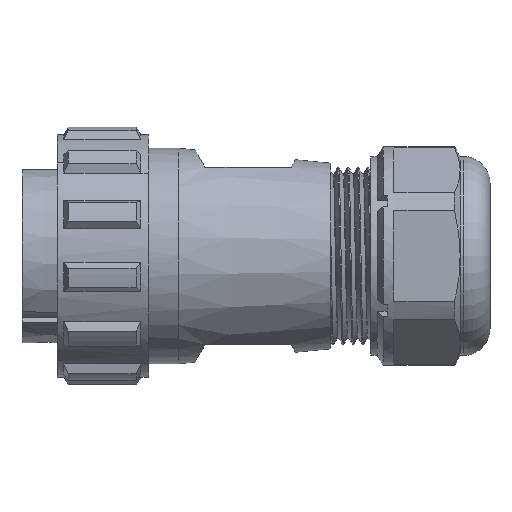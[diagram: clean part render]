
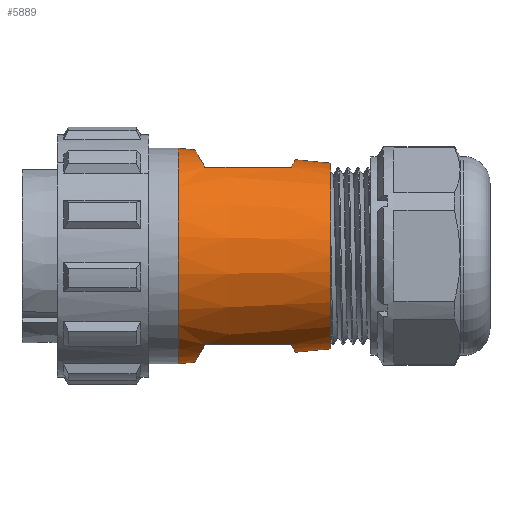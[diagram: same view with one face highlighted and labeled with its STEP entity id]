
A CAD part, top view. The second image highlights one B-rep face of the part: STEP entity #5889.
In plain terms, the highlighted conical face has half-angle 5.587 degrees and reference radius 15.125 mm.
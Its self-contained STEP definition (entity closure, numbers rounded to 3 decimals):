
#607=CARTESIAN_POINT('',(26.095,41.796,-25.792));
#608=CARTESIAN_POINT('',(26.095,41.796,-24.205));
#609=CARTESIAN_POINT('',(26.376,41.311,-21.225));
#610=CARTESIAN_POINT('',(27.111,40.038,-18.56));
#611=CARTESIAN_POINT('',(27.6,39.191,-17.31));
#613=CARTESIAN_POINT('',(40.6,39.191,-20.028));
#614=CARTESIAN_POINT('',(39.328,39.191,-19.714));
#615=CARTESIAN_POINT('',(36.668,39.191,-19.098));
#616=CARTESIAN_POINT('',(32.342,39.191,-18.2));
#617=CARTESIAN_POINT('',(29.219,39.191,-17.607));
#618=CARTESIAN_POINT('',(27.6,39.191,-17.31));
#620=CARTESIAN_POINT('',(41.249,40.314,-25.792));
#621=CARTESIAN_POINT('',(41.249,40.314,-23.775));
#622=CARTESIAN_POINT('',(41.027,39.931,-21.856));
#623=CARTESIAN_POINT('',(40.6,39.191,-20.028));
#625=CARTESIAN_POINT('',(46.6,25.791,-25.792));
#626=DIRECTION('',(1.,0.,0.));
#627=DIRECTION('',(0.,1.,0.));
#628=AXIS2_PLACEMENT_3D('',#625,#626,#627);
#630=CARTESIAN_POINT('',(40.6,12.391,-20.028));
#631=CARTESIAN_POINT('',(41.027,11.65,-21.856));
#632=CARTESIAN_POINT('',(41.249,11.267,-23.775));
#633=CARTESIAN_POINT('',(41.249,11.267,-25.792));
#635=CARTESIAN_POINT('',(27.6,12.391,-17.31));
#636=CARTESIAN_POINT('',(29.219,12.391,-17.607));
#637=CARTESIAN_POINT('',(32.342,12.391,-18.2));
#638=CARTESIAN_POINT('',(36.668,12.391,-19.098));
#639=CARTESIAN_POINT('',(39.328,12.391,-19.714));
#640=CARTESIAN_POINT('',(40.6,12.391,-20.028));
#642=CARTESIAN_POINT('',(27.6,12.391,-17.31));
#643=CARTESIAN_POINT('',(27.111,11.543,-18.56));
#644=CARTESIAN_POINT('',(26.376,10.27,-21.225));
#645=CARTESIAN_POINT('',(26.095,9.785,-24.205));
#646=CARTESIAN_POINT('',(26.095,9.785,-25.792));
#654=DIRECTION('',(-0.995,0.097,0.));
#655=VECTOR('',#654,2.507);
#656=CARTESIAN_POINT('',(26.095,41.796,-25.792));
#657=LINE('',#656,#655);
#658=DIRECTION('',(-0.995,-0.097,0.));
#659=VECTOR('',#658,2.507);
#660=CARTESIAN_POINT('',(26.095,9.785,-25.792));
#661=LINE('',#660,#659);
#680=DIRECTION('',(-0.995,-0.097,0.));
#681=VECTOR('',#680,5.377);
#682=CARTESIAN_POINT('',(46.6,11.791,-25.792));
#683=LINE('',#682,#681);
#689=DIRECTION('',(-0.995,0.097,0.));
#690=VECTOR('',#689,5.377);
#691=CARTESIAN_POINT('',(46.6,39.791,-25.792));
#692=LINE('',#691,#690);
#726=CARTESIAN_POINT('',(23.6,25.791,-25.792));
#727=DIRECTION('',(1.,0.,0.));
#728=DIRECTION('',(0.,1.,0.));
#729=AXIS2_PLACEMENT_3D('',#726,#727,#728);
#4456=CARTESIAN_POINT('',(46.6,39.791,-25.792));
#4457=CARTESIAN_POINT('',(46.6,11.791,-25.792));
#4458=VERTEX_POINT('',#4456);
#4459=VERTEX_POINT('',#4457);
#4460=CARTESIAN_POINT('',(23.6,42.041,-25.792));
#4461=CARTESIAN_POINT('',(23.6,9.541,-25.792));
#4462=VERTEX_POINT('',#4460);
#4463=VERTEX_POINT('',#4461);
#4464=VERTEX_POINT('',#607);
#4465=VERTEX_POINT('',#611);
#4466=VERTEX_POINT('',#613);
#4467=VERTEX_POINT('',#620);
#4468=VERTEX_POINT('',#630);
#4469=VERTEX_POINT('',#633);
#4470=VERTEX_POINT('',#635);
#4471=VERTEX_POINT('',#646);
#5859=CARTESIAN_POINT('',(35.1,25.791,-25.792));
#5860=DIRECTION('',(-1.,0.,0.));
#5861=DIRECTION('',(0.,1.,0.));
#5862=AXIS2_PLACEMENT_3D('',#5859,#5860,#5861);
#5863=CONICAL_SURFACE('',#5862,15.125,5.587);
#5865=ORIENTED_EDGE('',*,*,#5864,.T.);
#5867=ORIENTED_EDGE('',*,*,#5866,.F.);
#5869=ORIENTED_EDGE('',*,*,#5868,.F.);
#5871=ORIENTED_EDGE('',*,*,#5870,.F.);
#5872=ORIENTED_EDGE('',*,*,#5844,.T.);
#5874=ORIENTED_EDGE('',*,*,#5873,.T.);
#5876=ORIENTED_EDGE('',*,*,#5875,.F.);
#5878=ORIENTED_EDGE('',*,*,#5877,.F.);
#5880=ORIENTED_EDGE('',*,*,#5879,.T.);
#5882=ORIENTED_EDGE('',*,*,#5881,.T.);
#5884=ORIENTED_EDGE('',*,*,#5883,.F.);
#5886=ORIENTED_EDGE('',*,*,#5885,.F.);
#5887=EDGE_LOOP('',(#5865,#5867,#5869,#5871,#5872,#5874,#5876,#5878,#5880,#5882,
#5884,#5886));
#5888=FACE_OUTER_BOUND('',#5887,.F.);
#612=B_SPLINE_CURVE_WITH_KNOTS('',3,(#607,#608,#609,#610,#611),.UNSPECIFIED.,
.F.,.F.,(4,1,4),(0.,0.5,1.),.UNSPECIFIED.);
#619=B_SPLINE_CURVE_WITH_KNOTS('',3,(#613,#614,#615,#616,#617,#618),
.UNSPECIFIED.,.F.,.F.,(4,1,1,4),(0.,0.333,0.667,1.),
.UNSPECIFIED.);
#624=B_SPLINE_CURVE_WITH_KNOTS('',3,(#620,#621,#622,#623),.UNSPECIFIED.,.F.,.F.,
(4,4),(0.,1.),.UNSPECIFIED.);
#629=CIRCLE('',#628,14.);
#634=B_SPLINE_CURVE_WITH_KNOTS('',3,(#630,#631,#632,#633),.UNSPECIFIED.,.F.,.F.,
(4,4),(0.,1.),.UNSPECIFIED.);
#641=B_SPLINE_CURVE_WITH_KNOTS('',3,(#635,#636,#637,#638,#639,#640),
.UNSPECIFIED.,.F.,.F.,(4,1,1,4),(0.,0.333,0.667,1.),
.UNSPECIFIED.);
#647=B_SPLINE_CURVE_WITH_KNOTS('',3,(#642,#643,#644,#645,#646),.UNSPECIFIED.,
.F.,.F.,(4,1,4),(0.,0.5,1.),.UNSPECIFIED.);
#730=CIRCLE('',#729,16.25);
#5844=EDGE_CURVE('',#4458,#4459,#629,.T.);
#5864=EDGE_CURVE('',#4464,#4465,#612,.T.);
#5866=EDGE_CURVE('',#4466,#4465,#619,.T.);
#5868=EDGE_CURVE('',#4467,#4466,#624,.T.);
#5870=EDGE_CURVE('',#4458,#4467,#692,.T.);
#5873=EDGE_CURVE('',#4459,#4469,#683,.T.);
#5875=EDGE_CURVE('',#4468,#4469,#634,.T.);
#5877=EDGE_CURVE('',#4470,#4468,#641,.T.);
#5879=EDGE_CURVE('',#4470,#4471,#647,.T.);
#5881=EDGE_CURVE('',#4471,#4463,#661,.T.);
#5883=EDGE_CURVE('',#4462,#4463,#730,.T.);
#5885=EDGE_CURVE('',#4464,#4462,#657,.T.);
#5889=ADVANCED_FACE('',(#5888),#5863,.T.);
